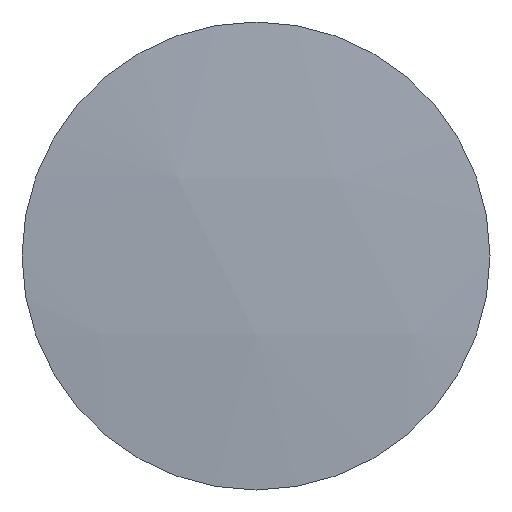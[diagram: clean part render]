
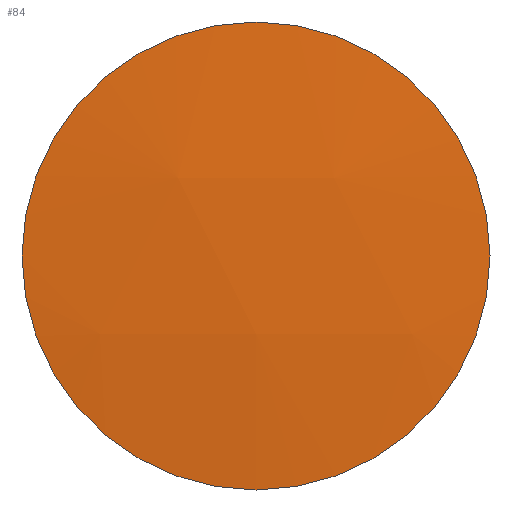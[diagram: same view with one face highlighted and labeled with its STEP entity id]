
A CAD part, front view. The second image highlights one B-rep face of the part: STEP entity #84.
In plain terms, the highlighted spherical face has radius 519 mm.
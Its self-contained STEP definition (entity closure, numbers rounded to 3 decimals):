
#68=CARTESIAN_POINT('',(0.0,513.6,0.0));
#69=DIRECTION('',(0.0,0.0,1.0));
#70=DIRECTION('',(1.0,0.0,0.0));
#71=AXIS2_PLACEMENT_3D('',#68,#69,#70);
#72=SPHERICAL_SURFACE('',#71,519.);
#73=CARTESIAN_POINT('',(-50.0,-2.986,0.0));
#74=VERTEX_POINT('',#73);
#75=CARTESIAN_POINT('',(0.0,-2.986,0.0));
#76=DIRECTION('',(0.0,1.0,0.0));
#77=DIRECTION('',(-1.0,0.0,0.0));
#78=AXIS2_PLACEMENT_3D('',#75,#76,#77);
#79=CIRCLE('',#78,50.0);
#80=EDGE_CURVE('',#74,#74,#79,.T.);
#81=ORIENTED_EDGE('',*,*,#80,.F.);
#82=EDGE_LOOP('',(#81));
#83=FACE_OUTER_BOUND('',#82,.T.);
#84=ADVANCED_FACE('',(#83),#72,.T.);
